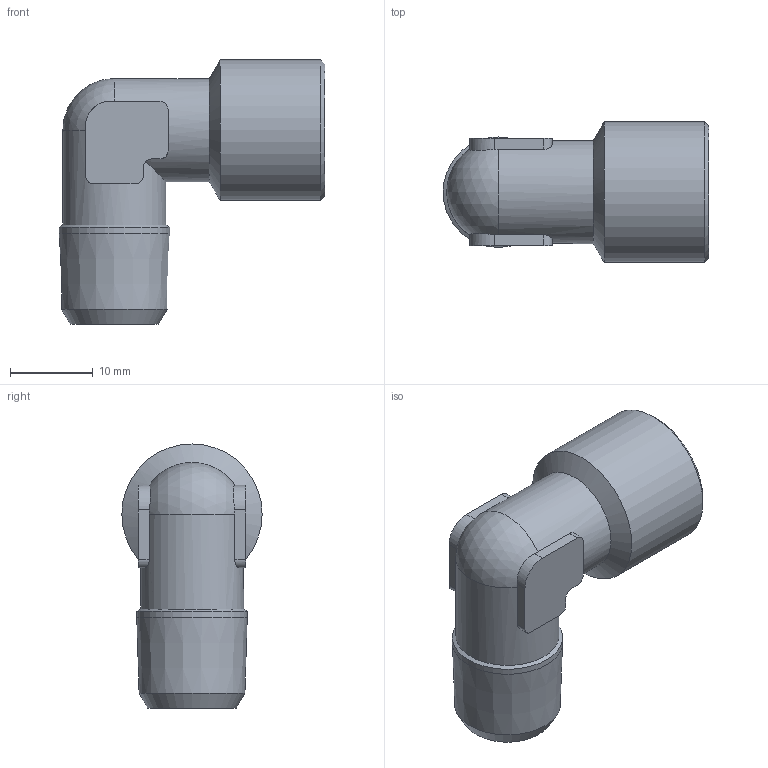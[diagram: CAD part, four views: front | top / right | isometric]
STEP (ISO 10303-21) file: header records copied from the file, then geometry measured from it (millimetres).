
FILE_DESCRIPTION(/* description */ (''),/* implementation_level */ '2;1');
FILE_NAME(/* name */ '50203_110_R14_G14_01.02.16',/* time_stamp */ '2016-02-01T09:39:54+01:00',/* author */ (''),/* organization */ (''),/* preprocessor_version */ 'ST-DEVELOPER v14',/* originating_system */ 'HiCAD 2013 1802.4 Build 509',/* authorisation */ '');
FILE_SCHEMA (('AUTOMOTIVE_DESIGN { 1 0 10303 214 1 1 1 1 }'));
Length unit declared in the file: millimetre
Products named in the file (2): Root; 50203
Assembly tree (1 placements, depth 2):
  Root
    50203
Bounding box: 32.19 x 17 x 32 mm (x, y, z)
Volume: 4420.9 mm3; surface area: 3761.6 mm2
Topology: 1 solids, 1 shells, 50 faces, 133 edges, 84 vertices
Faces by surface type: cylinder 22, plane 16, cone 11, sphere 1
Full cylindrical faces by diameter (mm): 8 x2, 11.445 x1, 12.5 x2, 13.388 x1, 17 x1
Entity records: 4409 total; most frequent: CARTESIAN_POINT 2151, DIRECTION 242, PRESENTATION_STYLE_ASSIGNMENT 221, COLOUR_RGB 221, DRAUGHTING_PRE_DEFINED_CURVE_FONT 220, CURVE_STYLE 220, OVER_RIDING_STYLED_ITEM 220, ORIENTED_EDGE 220
